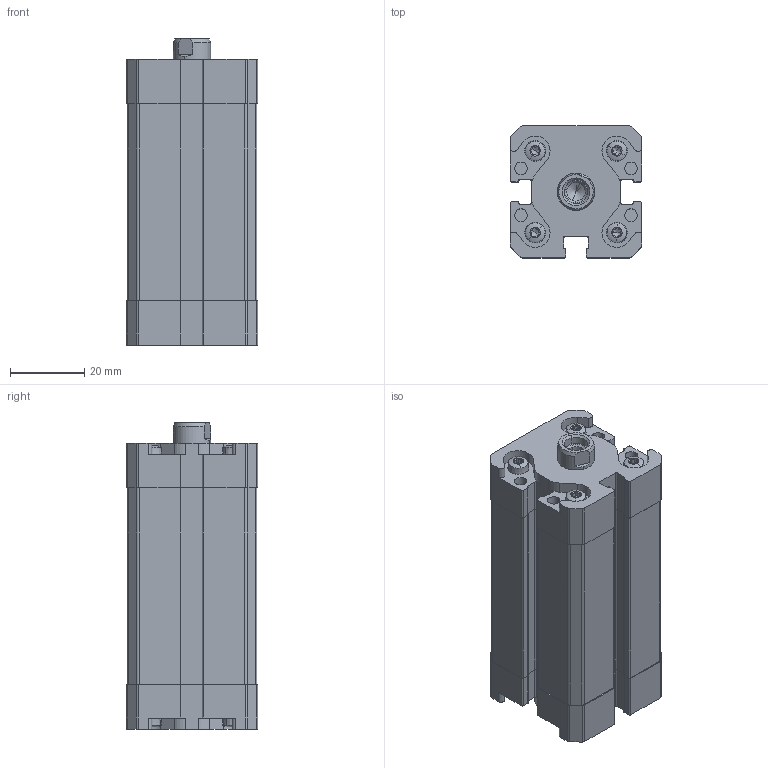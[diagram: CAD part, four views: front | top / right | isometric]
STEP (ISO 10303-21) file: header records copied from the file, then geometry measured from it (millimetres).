
FILE_DESCRIPTION (( 'STEP AP214' ), '1' );
FILE_NAME ('WPCC-020-0040 (3D).STEP', '2023-05-29T09:43:13', ( '' ), ( '' ), 'SwSTEP 2.0', 'SolidWorks 2015', '' );
FILE_SCHEMA (( 'AUTOMOTIVE_DESIGN' ));
Length unit declared in the file: inch
Products named in the file (3): WPCC-020-0040 (3D); Group1^Assem1; Group2^Assem1
Assembly tree (2 placements, depth 2):
  WPCC-020-0040 (3D)
    Group1^Assem1
    Group2^Assem1
Bounding box: 35.5 x 35.5 x 82.5 mm (x, y, z)
Volume: 73401.4 mm3; surface area: 30257.4 mm2
Topology: 12 solids, 12 shells, 762 faces, 2004 edges, 1267 vertices
Faces by surface type: cylinder 326, plane 240, cone 152, bspline 28, torus 16
Entity records: 26910 total; most frequent: CARTESIAN_POINT 7076, ORIENTED_EDGE 3964, DIRECTION 3706, EDGE_CURVE 1982, AXIS2_PLACEMENT_3D 1329, VERTEX_POINT 1267, LINE 1048, VECTOR 1048
